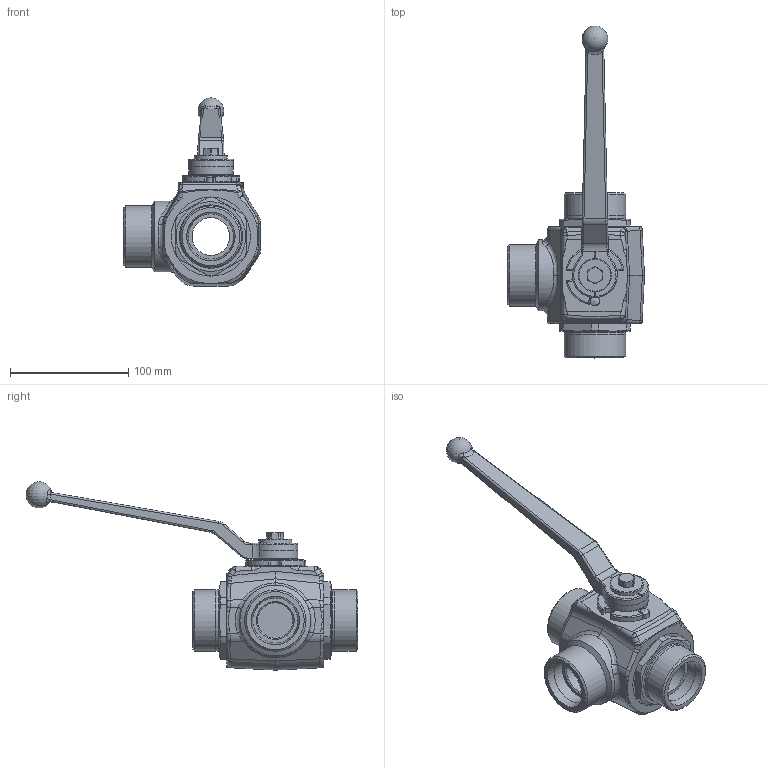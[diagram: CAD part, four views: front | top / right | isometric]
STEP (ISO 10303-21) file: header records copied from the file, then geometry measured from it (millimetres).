
FILE_DESCRIPTION( ( 'Unknown' ), '1' );
FILE_NAME( 'H:/PISTER/3D-MODELLE/SK3 stp/SK3 DN32 38S.stp', 'Unknown', ( 'Unknown' ), ( 'Unknown' ), 'PSStep 14.0', 'Unknown', ' ' );
FILE_SCHEMA( ( 'AUTOMOTIVE_DESIGN { 1 0 10303 214 1 1 1 1 }' ) );
Length unit declared in the file: millimetre
Products named in the file (10): Assem1; 56-032-048-oa9; 58-28740-01; 58-0440-003; 58-0933-163; 04-032-052-oa10; 04-032-052-oa11; 09-17-001; Griff_SW17_; 01-032-112-oa12
Assembly tree (9 placements, depth 2):
  Assem1
    56-032-048-oa9
    58-28740-01
    58-0440-003
    58-0933-163
    04-032-052-oa10
    04-032-052-oa11
    09-17-001
    Griff_SW17_
    01-032-112-oa12
Bounding box: 116 x 280.82 x 159.4 mm (x, y, z)
Volume: 316969.8 mm3; surface area: 111785.9 mm2
Topology: 9 solids, 9 shells, 470 faces, 1177 edges, 720 vertices
Faces by surface type: plane 138, cylinder 133, bspline 110, cone 43, torus 35, sphere 11
Full cylindrical faces by diameter (mm): 6.8 x1, 7.98 x1, 8 x1, 9.2 x1, 24 x2, 28 x1, 30 x1, 32 x3, 38.3 x1, 38.35 x2, 52 x5, 56.3 x2, 56.35 x2, 60 x1, 67 x2, 69 x2
Entity records: 23547 total; most frequent: CARTESIAN_POINT 9576, ORIENTED_EDGE 2142, DIRECTION 1968, EDGE_CURVE 1071, AXIS2_PLACEMENT_3D 815, VERTEX_POINT 688, EDGE_LOOP 556, FACE_OUTER_BOUND 507
